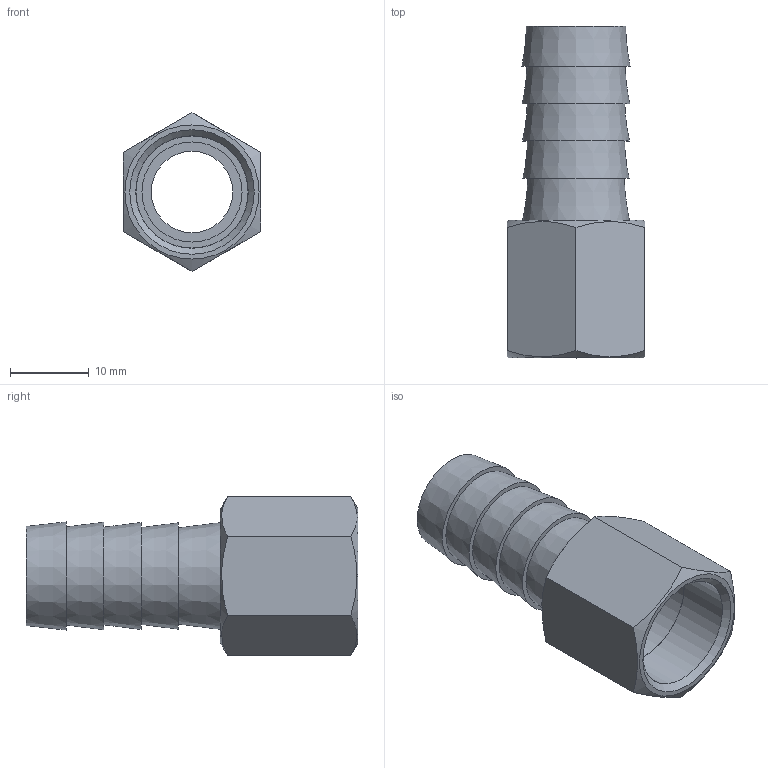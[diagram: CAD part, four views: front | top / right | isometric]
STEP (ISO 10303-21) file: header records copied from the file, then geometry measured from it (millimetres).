
FILE_DESCRIPTION(/* description */ (''),/* implementation_level */ '2;1');
FILE_NAME(/* name */ 'C:/Users/drich/Desktop/FB50-6 v2.step',/* time_stamp */ '2020-02-09T10:48:42-06:00',/* author */ (''),/* organization */ (''),/* preprocessor_version */ 'ST-DEVELOPER v18',/* originating_system */ 'Autodesk Translation Framework v8.12.0.6',/* authorisation */ '');
FILE_SCHEMA (('AUTOMOTIVE_DESIGN { 1 0 10303 214 3 1 1 }'));
Length unit declared in the file: inch
Products named in the file (2): FB50-6; 50 BARB ONLY
Assembly tree (1 placements, depth 2):
  FB50-6
    50 BARB ONLY
Bounding box: 17.45 x 42.09 x 20.15 mm (x, y, z)
Volume: 3094.6 mm3; surface area: 4049.5 mm2
Topology: 2 solids, 2 shells, 29 faces, 72 edges, 52 vertices
Faces by surface type: plane 15, cone 10, cylinder 4
Full cylindrical faces by diameter (mm): 10.312 x1, 12.7 x1, 14.224 x1, 14.275 x1
Entity records: 961 total; most frequent: CARTESIAN_POINT 180, DIRECTION 164, ORIENTED_EDGE 144, EDGE_CURVE 72, AXIS2_PLACEMENT_3D 72, VERTEX_POINT 52, CIRCLE 40, EDGE_LOOP 38
